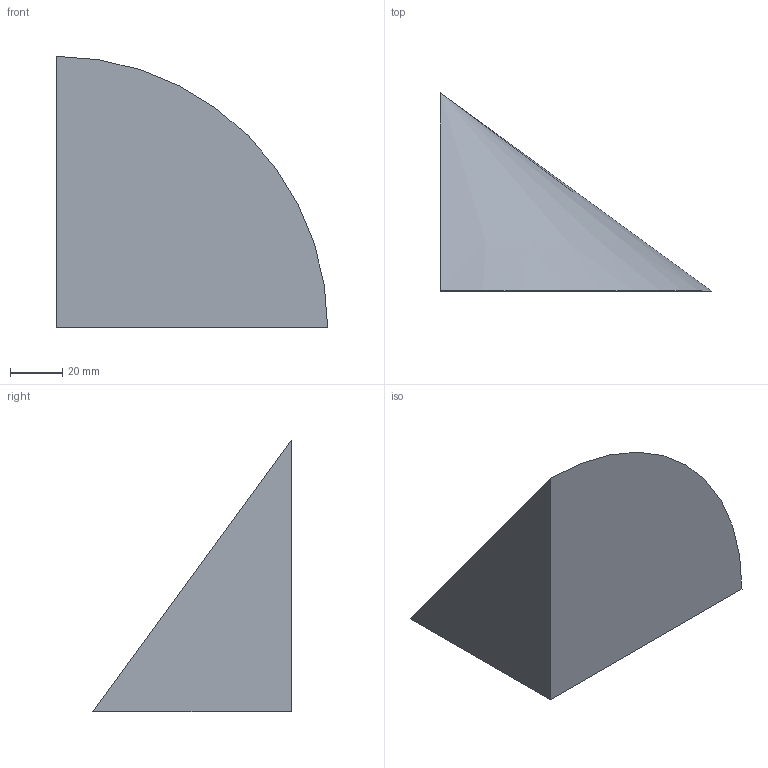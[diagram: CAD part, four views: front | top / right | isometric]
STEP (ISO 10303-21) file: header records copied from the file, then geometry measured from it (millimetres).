
FILE_DESCRIPTION(('CATIA V5 STEP Exchange'),'2;1');
FILE_NAME('C:\_Andres\UNIVERSIDAD\IQS\ASIGNATURAS\DAO\EXF\EXF-16172c\2inicio\Bonilla_Arrufat_Ej07_v4.stp','2017-03-05T21:18:11+00:00',('none'),('none'),'CATIA Version 5-6 Release 2014 SP1 HF18','CATIA V5 STEP AP203','none');
FILE_SCHEMA(('CONFIG_CONTROL_DESIGN'));
Length unit declared in the file: millimetre
Products named in the file (1): Bonilla_Arrufat_Ej07_v4
Bounding box: 104 x 76 x 104 mm (x, y, z)
Volume: 215203.3 mm3; surface area: 26920.2 mm2
Topology: 1 solids, 1 shells, 4 faces, 7 edges, 4 vertices
Faces by surface type: plane 3, cone 1
Entity records: 131 total; most frequent: CARTESIAN_POINT 15, DIRECTION 14, ORIENTED_EDGE 12, AXIS2_PLACEMENT_3D 6, EDGE_CURVE 6, VECTOR 5, LINE 5, ADVANCED_FACE 4
